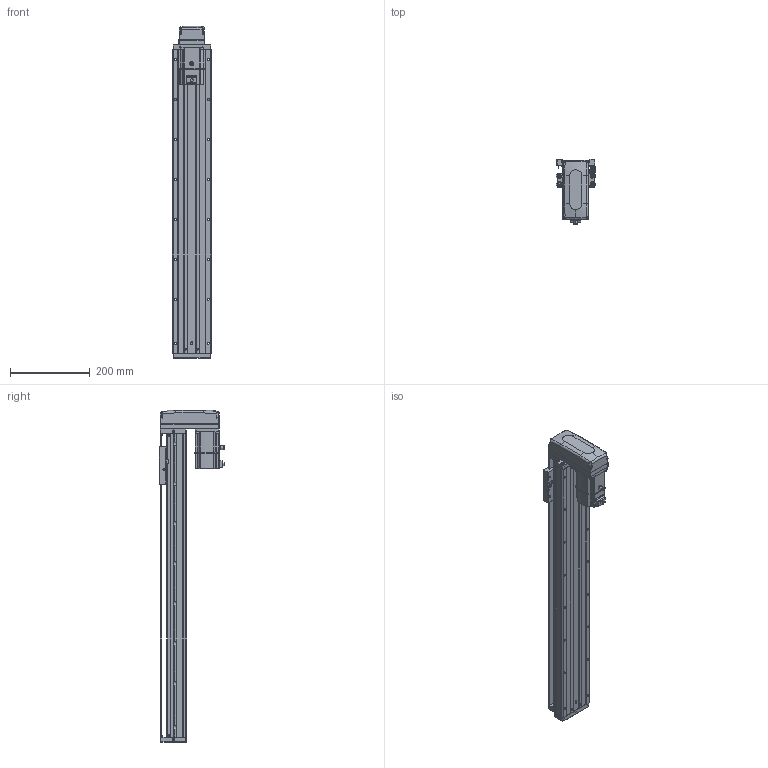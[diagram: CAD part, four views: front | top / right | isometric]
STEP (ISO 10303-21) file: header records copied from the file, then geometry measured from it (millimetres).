
FILE_DESCRIPTION (( 'STEP AP203' ), '1' );
FILE_NAME ('KTHA100-600-BM-M20-C4L.step', '2022-04-26T01:53:48', ( '微软用户' ), ( '微软中国' ), 'SwSTEP 2.0', 'SolidWorks 2020', '' );
FILE_SCHEMA (( 'CONFIG_CONTROL_DESIGN' ));
Length unit declared in the file: millimetre
Products named in the file (17): KTHA100-002; GBT77-2000 M3×3; CTHA86-033; KTHA100-004; GBT 70.1-M3℅6; KTHA100-600-BM-M20-C4L; KTHA100-005; GBT70.1 M5℅16; GB¨uT 70.2-M3¡Á5_M3¡Á6; CTHA60-016; EE_SX911P_R; GBT 70.3-M3℅6; CTHA60-017; _X2_4E0983F1_X0_200W_1; KTHA100-001_760; CTHA60-021; CTHA86-015-1_CTHA86-015-2
Assembly tree (57 placements, depth 2):
  KTHA100-600-BM-M20-C4L
    KTHA100-001_760
    KTHA100-002
    KTHA100-004
    KTHA100-005
    GB¨uT 70.2-M3¡Á5_M3¡Á6  x6
    EE_SX911P_R  x3
    CTHA60-017  x3
    CTHA60-021  x2
    GBT77-2000 M3×3  x6
    GBT 70.1-M3℅6  x10
    GBT70.1 M5℅16  x14
    CTHA60-016  x2
    GBT 70.3-M3℅6  x4
    _X2_4E0983F1_X0_200W_1
    CTHA86-015-1_CTHA86-015-2
    CTHA86-033
Bounding box: 98.82 x 163.2 x 831 mm (x, y, z)
Volume: 3693976.6 mm3; surface area: 603392 mm2
Topology: 60 solids, 60 shells, 2437 faces, 5833 edges, 3616 vertices
Faces by surface type: plane 1244, cylinder 677, cone 309, torus 116, bspline 75, sphere 16
Entity records: 41948 total; most frequent: CARTESIAN_POINT 8448, DIRECTION 6492, ORIENTED_EDGE 6278, EDGE_CURVE 3139, AXIS2_PLACEMENT_3D 2268, VERTEX_POINT 1976, VECTOR 1956, LINE 1956
